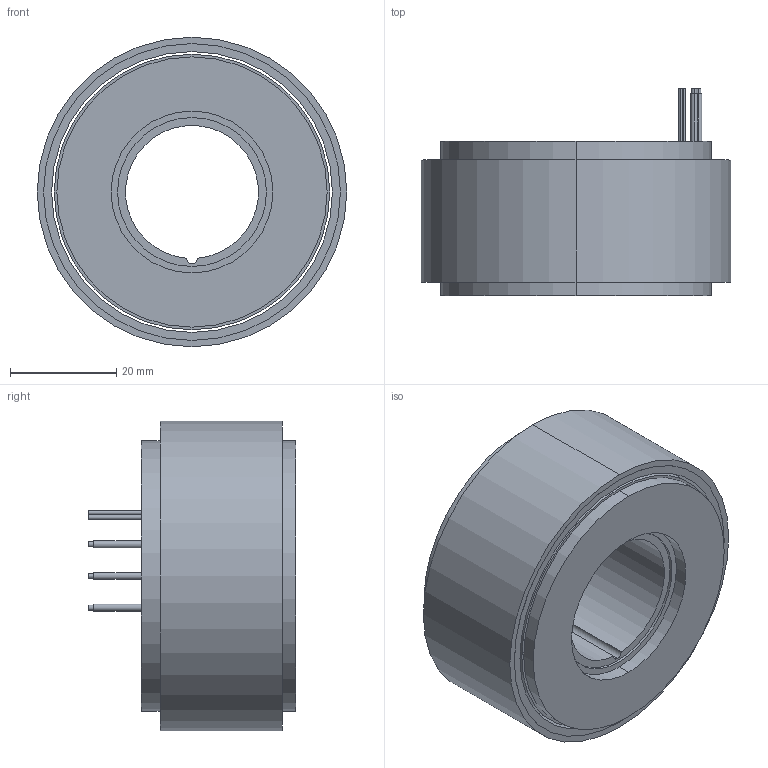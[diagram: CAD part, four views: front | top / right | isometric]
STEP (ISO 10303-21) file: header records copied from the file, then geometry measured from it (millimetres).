
FILE_DESCRIPTION (( 'STEP AP214' ), '1' );
FILE_NAME ('UE5829µç»ú.STEP', '2026-04-06T06:45:16', ( 'Windows User' ), ( 'P R C' ), 'SwSTEP 2.0', 'SolidWorks 2023', '' );
FILE_SCHEMA (( 'AUTOMOTIVE_DESIGN' ));
Length unit declared in the file: millimetre
Products named in the file (1): UE5829电机
Bounding box: 58.2 x 39 x 58.2 mm (x, y, z)
Volume: 55697.1 mm3; surface area: 19478.2 mm2
Topology: 2 solids, 2 shells, 61 faces, 123 edges, 82 vertices
Faces by surface type: cylinder 41, plane 20
Entity records: 1679 total; most frequent: DIRECTION 329, CARTESIAN_POINT 267, ORIENTED_EDGE 246, AXIS2_PLACEMENT_3D 144, EDGE_CURVE 123, VERTEX_POINT 82, CIRCLE 82, EDGE_LOOP 81
